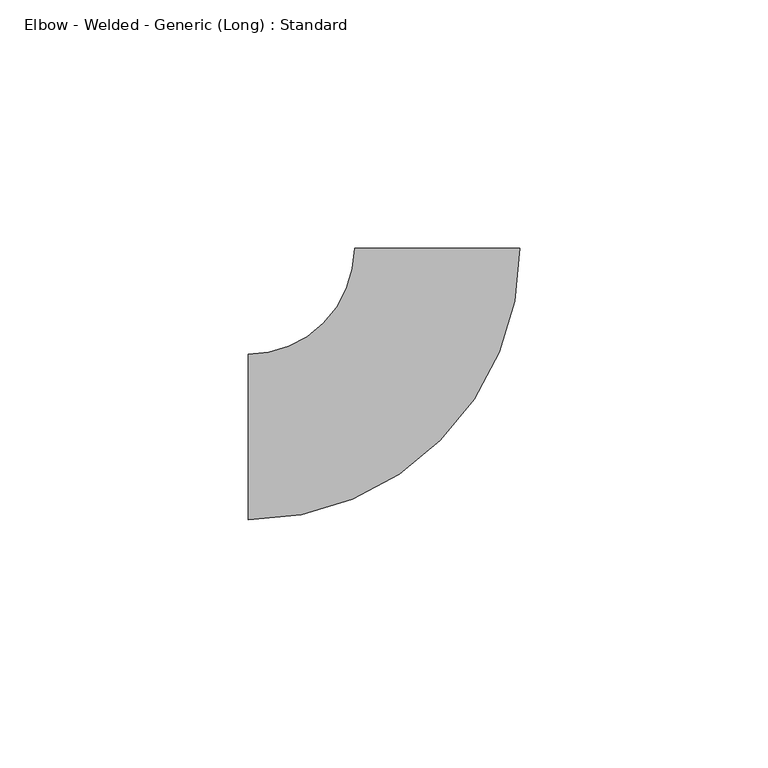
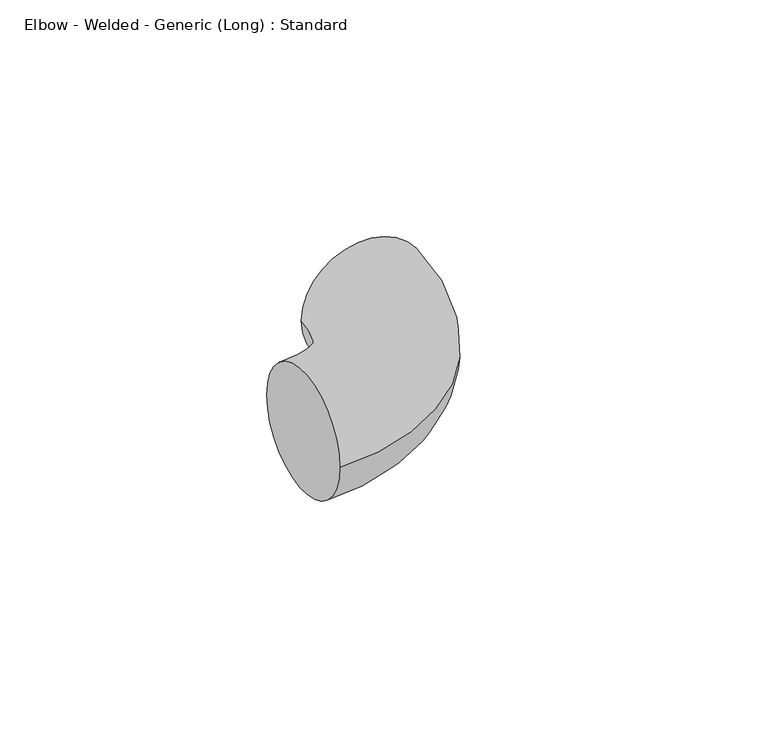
"""IFC4 building model written with IfcOpenShell, lengths in millimetres: pipe fitting geometry, Elbow - Welded - Generic (Long) : Standard."""

from ifc_helpers import new_model, si_unit, point, frame, origin, place, context, project, spatial, circle_curve, ellipse_curve, trimmed, source, transform, mapped, element, save
from ifc_brep_helpers import plane_surface, revolved_surface, advanced_brep


def elbow_welded_generic_long_standard_f888189f(model_context):
    return source(origin(), model_context, "Body", "AdvancedBrep", [
        advanced_brep(
        [(-38.1, -16.66875, 0.0), (-38.1, 16.66875, 0.0), (16.7015287, 38.0856425, 0.0), (-16.635959, 38.1143293, 0.0)],
        [
            (0, 1, circle_curve(frame((-38.1, 0.0, 0.0), z_axis=(-1.0, 0.0, 0.0), x_axis=(0.0, 1.0, 0.0)), 16.66875)),
            (1, 0, circle_curve(frame((-38.1, 0.0, 0.0), z_axis=(-1.0, 0.0, 0.0), x_axis=(0.0, 1.0, 0.0)), 16.66875)),
            (2, 3, circle_curve(frame((0.0327849, 38.0999859, 0.0), z_axis=(0.0008604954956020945, 0.9999996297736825, 0.0), x_axis=(-0.9999996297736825, 0.0008604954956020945, 0.0)), 16.66875)),
            (3, 2, circle_curve(frame((0.0327849, 38.0999859, 0.0), z_axis=(0.0008604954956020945, 0.9999996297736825, 0.0), x_axis=(-0.9999996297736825, 0.0008604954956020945, 0.0)), 16.66875)),
            (3, 1, circle_curve(frame((-38.1, 38.132799, 0.0), z_axis=(0.0, 0.0, -1.0), x_axis=(0.0, -1.0, 0.0)), 21.464049)),
            (0, 2, circle_curve(frame((-38.1, 38.132799, 0.0), z_axis=(0.0, 0.0, 1.0), x_axis=(0.0, -1.0, 0.0)), 54.801549)),
        ],
        [
            plane_surface(frame((-38.1, 0.0, 0.0), z_axis=(-1.0, 0.0, 0.0), x_axis=(0.0, 0.0, 1.0))),
            plane_surface(frame((0.0327849, 38.0999859, 0.0), z_axis=(0.0008604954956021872, 0.9999996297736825, 0.0), x_axis=(0.0, 0.0, 1.0))),
            revolved_surface(trimmed(ellipse_curve(frame((-38.1, 0.0, 0.0), z_axis=(-1.0, 0.0, 0.0), x_axis=(0.0, 1.0, 0.0)), 16.66875, 16.66875), [point((-38.1, -16.66875, 0.0))], [point((-38.1, 16.66875, 0.0))], True, "CARTESIAN"), (-38.1, 38.132799, 0.0), (0.0, 0.0, 1.0)),
            revolved_surface(trimmed(ellipse_curve(frame((-38.1, 0.0, 0.0), z_axis=(-1.0, 0.0, 0.0), x_axis=(0.0, 1.0, 0.0)), 16.66875, 16.66875), [point((-38.1, 16.66875, 0.0))], [point((-38.1, -16.66875, 0.0))], True, "CARTESIAN"), (-38.1, 38.132799, 0.0), (0.0, 0.0, 1.0)),
        ],
        [
            (0, [[1, 2]]),
            (1, [[3, 4]]),
            (2, [[5, -1, 6, -4]]),
            (3, [[-6, -2, -5, -3]]),
        ],
    ),
    ])


if __name__ == "__main__":
    model = new_model("IFC4")
    model_context = context("Model", 3, world=origin())
    ifc_project = project(units=[si_unit("LENGTHUNIT", "METRE", prefix="MILLI")], contexts=[model_context])
    site = spatial("IfcSite", under=ifc_project)
    building = spatial("IfcBuilding", under=site)
    placement = place(None, origin())
    elbow_welded_generic_long_standard_shape = elbow_welded_generic_long_standard_f888189f(model_context)
    element("IfcPipeFitting", 1, ObjectType="Elbow - Welded - Generic (Long) : Standard", at=placement, inside=building, context=model_context, shape_type="MappedRepresentation", body=[
        mapped(elbow_welded_generic_long_standard_shape, transform((0.0, 0.0, 0.0), x_axis=(1.0, 0.0, 0.0), y_axis=(0.0, 1.0, 0.0), z_axis=(0.0, 0.0, 1.0))),
    ])
    save(model, "model.ifc")
